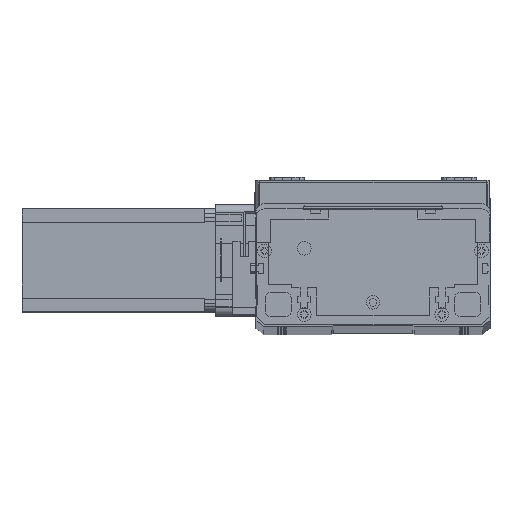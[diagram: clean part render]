
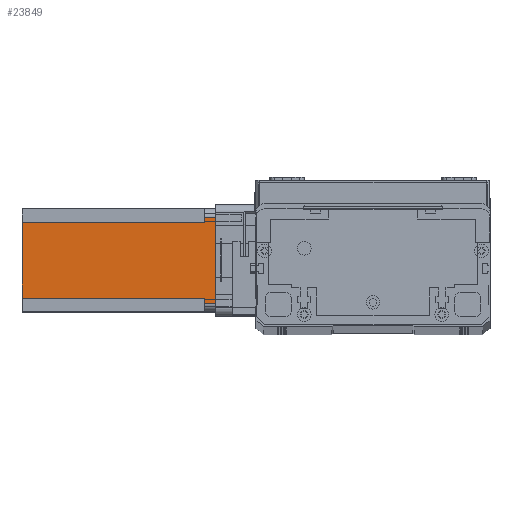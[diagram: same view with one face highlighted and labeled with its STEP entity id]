
A CAD part, top view. The second image highlights one B-rep face of the part: STEP entity #23849.
In plain terms, the highlighted planar face has unit normal (0, 0, 1) as drawn and (0, -1, 0) by its records, which use the part's own axes.
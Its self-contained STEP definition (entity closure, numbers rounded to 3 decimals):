
#248 = VECTOR ( 'NONE', #21503, 1000. ) ;
#538 = DIRECTION ( 'NONE',  ( 1., 0., 0. ) ) ;
#681 = DIRECTION ( 'NONE',  ( 0., 0., 1. ) ) ;
#897 = CARTESIAN_POINT ( 'NONE',  ( 55., 0., -6.5 ) ) ;
#969 = LINE ( 'NONE', #2232, #248 ) ;
#1345 = ORIENTED_EDGE ( 'NONE', *, *, #14152, .F. ) ;
#1486 = CARTESIAN_POINT ( 'NONE',  ( 0., 0., -112.5 ) ) ;
#1582 = DIRECTION ( 'NONE',  ( 0., 0., -1. ) ) ;
#2167 = CARTESIAN_POINT ( 'NONE',  ( 5., 0., -112.5 ) ) ;
#2232 = CARTESIAN_POINT ( 'NONE',  ( 52., 0., -112.5 ) ) ;
#2243 = VERTEX_POINT ( 'NONE', #18151 ) ;
#4269 = VERTEX_POINT ( 'NONE', #16294 ) ;
#4537 = VERTEX_POINT ( 'NONE', #16686 ) ;
#4813 = LINE ( 'NONE', #21888, #9969 ) ;
#4861 = VECTOR ( 'NONE', #681, 1000. ) ;
#5622 = VERTEX_POINT ( 'NONE', #7534 ) ;
#6325 = VECTOR ( 'NONE', #10931, 1000. ) ;
#6534 = ORIENTED_EDGE ( 'NONE', *, *, #20909, .T. ) ;
#6635 = VERTEX_POINT ( 'NONE', #26881 ) ;
#7240 = AXIS2_PLACEMENT_3D ( 'NONE', #1486, #14543, #1582 ) ;
#7534 = CARTESIAN_POINT ( 'NONE',  ( 52., 0., -112.5 ) ) ;
#8134 = ORIENTED_EDGE ( 'NONE', *, *, #23593, .T. ) ;
#8393 = VERTEX_POINT ( 'NONE', #23987 ) ;
#8660 = VERTEX_POINT ( 'NONE', #897 ) ;
#9414 = LINE ( 'NONE', #25955, #19972 ) ;
#9472 = EDGE_CURVE ( 'NONE', #10414, #2243, #4813, .T. ) ;
#9969 = VECTOR ( 'NONE', #24020, 1000. ) ;
#10414 = VERTEX_POINT ( 'NONE', #19405 ) ;
#10771 = LINE ( 'NONE', #2167, #16463 ) ;
#10931 = DIRECTION ( 'NONE',  ( 0., 0., 1. ) ) ;
#11251 = LINE ( 'NONE', #17836, #27209 ) ;
#11515 = DIRECTION ( 'NONE',  ( 1., 0., 0. ) ) ;
#11730 = ORIENTED_EDGE ( 'NONE', *, *, #13550, .T. ) ;
#11753 = EDGE_CURVE ( 'NONE', #8393, #5622, #969, .T. ) ;
#13550 = EDGE_CURVE ( 'NONE', #10414, #6635, #10771, .T. ) ;
#14152 = EDGE_CURVE ( 'NONE', #4269, #6635, #18684, .T. ) ;
#14543 = DIRECTION ( 'NONE',  ( 0., -1., 0. ) ) ;
#14954 = EDGE_CURVE ( 'NONE', #8660, #2243, #26659, .T. ) ;
#15174 = ORIENTED_EDGE ( 'NONE', *, *, #9472, .F. ) ;
#15200 = CARTESIAN_POINT ( 'NONE',  ( 8., 0., -112.5 ) ) ;
#15794 = CARTESIAN_POINT ( 'NONE',  ( 55., 0., -112.5 ) ) ;
#16294 = CARTESIAN_POINT ( 'NONE',  ( 8., 0., -6.5 ) ) ;
#16463 = VECTOR ( 'NONE', #17271, 1000. ) ;
#16686 = CARTESIAN_POINT ( 'NONE',  ( 8., 0., -112.5 ) ) ;
#17271 = DIRECTION ( 'NONE',  ( 0., 0., -1. ) ) ;
#17836 = CARTESIAN_POINT ( 'NONE',  ( 52., 0., -6.5 ) ) ;
#18046 = VECTOR ( 'NONE', #21234, 1000. ) ;
#18061 = ORIENTED_EDGE ( 'NONE', *, *, #23439, .F. ) ;
#18151 = CARTESIAN_POINT ( 'NONE',  ( 55., 0., 0. ) ) ;
#18181 = EDGE_LOOP ( 'NONE', ( #6534, #25385, #15174, #11730, #1345, #18061, #8134, #20337 ) ) ;
#18684 = LINE ( 'NONE', #19137, #18046 ) ;
#19137 = CARTESIAN_POINT ( 'NONE',  ( 8., 0., -6.5 ) ) ;
#19405 = CARTESIAN_POINT ( 'NONE',  ( 5., 0., 0. ) ) ;
#19972 = VECTOR ( 'NONE', #538, 1000. ) ;
#20337 = ORIENTED_EDGE ( 'NONE', *, *, #11753, .F. ) ;
#20909 = EDGE_CURVE ( 'NONE', #8393, #8660, #11251, .T. ) ;
#21234 = DIRECTION ( 'NONE',  ( -1., 0., 0. ) ) ;
#21503 = DIRECTION ( 'NONE',  ( 0., 0., -1. ) ) ;
#21888 = CARTESIAN_POINT ( 'NONE',  ( 0., 0., 0. ) ) ;
#23439 = EDGE_CURVE ( 'NONE', #4537, #4269, #25147, .T. ) ;
#23593 = EDGE_CURVE ( 'NONE', #4537, #5622, #9414, .T. ) ;
#23849 = ADVANCED_FACE ( 'NONE', ( #24478 ), #24881, .T. ) ;
#23987 = CARTESIAN_POINT ( 'NONE',  ( 52., 0., -6.5 ) ) ;
#24020 = DIRECTION ( 'NONE',  ( 1., 0., 0. ) ) ;
#24478 = FACE_OUTER_BOUND ( 'NONE', #18181, .T. ) ;
#24881 = PLANE ( 'NONE',  #7240 ) ;
#25147 = LINE ( 'NONE', #15200, #6325 ) ;
#25385 = ORIENTED_EDGE ( 'NONE', *, *, #14954, .T. ) ;
#25955 = CARTESIAN_POINT ( 'NONE',  ( 0., 0., -112.5 ) ) ;
#26659 = LINE ( 'NONE', #15794, #4861 ) ;
#26881 = CARTESIAN_POINT ( 'NONE',  ( 5., 0., -6.5 ) ) ;
#27209 = VECTOR ( 'NONE', #11515, 1000. ) ;
